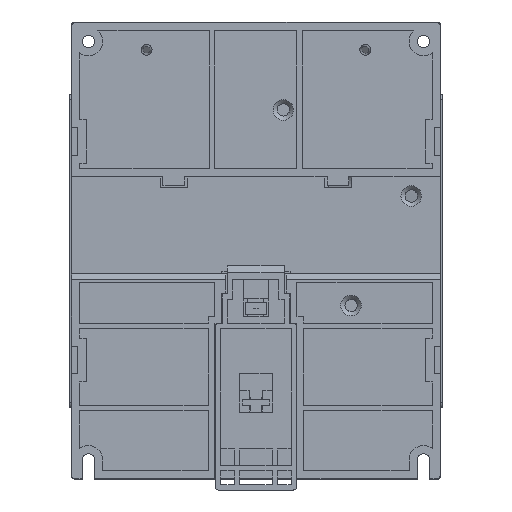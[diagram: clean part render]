
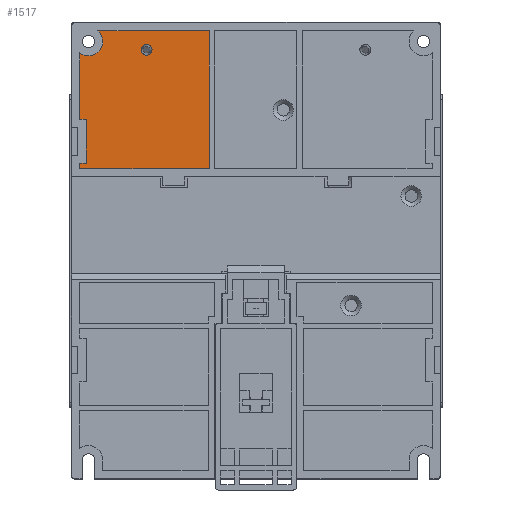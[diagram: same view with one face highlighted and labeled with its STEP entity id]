
A CAD part, left-side view. The second image highlights one B-rep face of the part: STEP entity #1517.
In plain terms, the highlighted planar face has unit normal (-1, 0, 0) as drawn and (0, -1, 0) by its records, which use the part's own axes.
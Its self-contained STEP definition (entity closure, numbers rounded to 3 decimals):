
#1517=ADVANCED_FACE('',(#9843,#9845),#9847,.T.);
#9843=FACE_BOUND('',#9844,.T.);
#9844=EDGE_LOOP('',(#35910,#35911,#35912,#35913,#35914,#35915,#35916,#35917,#35918));
#9845=FACE_BOUND('',#9846,.T.);
#9846=EDGE_LOOP('',(#35919));
#9847=PLANE('',#9848);
#9848=AXIS2_PLACEMENT_3D('',#9849,#9850,#9851);
#9849=CARTESIAN_POINT('',(0.,5.,0.));
#9850=DIRECTION('',(0.,-1.,0.));
#9851=DIRECTION('',(0.,0.,1.));
#35910=ORIENTED_EDGE('',*,*,#52299,.T.);
#35911=ORIENTED_EDGE('',*,*,#52315,.T.);
#35912=ORIENTED_EDGE('',*,*,#52313,.T.);
#35913=ORIENTED_EDGE('',*,*,#52311,.T.);
#35914=ORIENTED_EDGE('',*,*,#52309,.T.);
#35915=ORIENTED_EDGE('',*,*,#52307,.T.);
#35916=ORIENTED_EDGE('',*,*,#52305,.T.);
#35917=ORIENTED_EDGE('',*,*,#52303,.T.);
#35918=ORIENTED_EDGE('',*,*,#52301,.T.);
#35919=ORIENTED_EDGE('',*,*,#52343,.F.);
#52299=EDGE_CURVE('',#60927,#60925,#60928,.T.);
#52301=EDGE_CURVE('',#60930,#60927,#60931,.T.);
#52303=EDGE_CURVE('',#60933,#60930,#60934,.T.);
#52305=EDGE_CURVE('',#60936,#60933,#60937,.T.);
#52307=EDGE_CURVE('',#60939,#60936,#60940,.T.);
#52309=EDGE_CURVE('',#60942,#60939,#60943,.T.);
#52311=EDGE_CURVE('',#60945,#60942,#60946,.T.);
#52313=EDGE_CURVE('',#60948,#60945,#60949,.T.);
#52315=EDGE_CURVE('',#60925,#60948,#60951,.T.);
#52343=EDGE_CURVE('',#60980,#60980,#60981,.T.);
#60925=VERTEX_POINT('',#76284);
#60927=VERTEX_POINT('',#76288);
#60928=CIRCLE('',#76289,5.25);
#60930=VERTEX_POINT('',#76296);
#60931=LINE('',#76297,#76298);
#60933=VERTEX_POINT('',#76303);
#60934=LINE('',#76304,#76305);
#60936=VERTEX_POINT('',#76310);
#60937=LINE('',#76311,#76312);
#60939=VERTEX_POINT('',#76317);
#60940=LINE('',#76318,#76319);
#60942=VERTEX_POINT('',#76324);
#60943=LINE('',#76325,#76326);
#60945=VERTEX_POINT('',#76331);
#60946=LINE('',#76332,#76333);
#60948=VERTEX_POINT('',#76338);
#60949=LINE('',#76339,#76340);
#60951=LINE('',#76345,#76346);
#60980=VERTEX_POINT('',#76434);
#60981=CIRCLE('',#76435,2.);
#76284=CARTESIAN_POINT('',(64.447,5.,-72.336));
#76288=CARTESIAN_POINT('',(57.788,5.,-80.447));
#76289=AXIS2_PLACEMENT_3D('',#76290,#76291,#76292);
#76290=CARTESIAN_POINT('',(61.25,5.,-76.5));
#76291=DIRECTION('',(0.,1.,0.));
#76292=DIRECTION('',(-0.659,0.,-0.752));
#76296=CARTESIAN_POINT('',(17.,5.,-80.447));
#76297=CARTESIAN_POINT('',(17.,5.,-80.447));
#76298=VECTOR('',#76299,1.);
#76299=DIRECTION('',(1.,0.,0.));
#76303=CARTESIAN_POINT('',(17.,5.,-30.));
#76304=CARTESIAN_POINT('',(17.,5.,-30.));
#76305=VECTOR('',#76306,1.);
#76306=DIRECTION('',(0.,0.,-1.));
#76310=CARTESIAN_POINT('',(64.447,5.,-30.));
#76311=CARTESIAN_POINT('',(64.447,5.,-30.));
#76312=VECTOR('',#76313,1.);
#76313=DIRECTION('',(-1.,0.,0.));
#76317=CARTESIAN_POINT('',(64.447,5.,-32.));
#76318=CARTESIAN_POINT('',(64.447,5.,-32.));
#76319=VECTOR('',#76320,1.);
#76320=DIRECTION('',(0.,0.,1.));
#76324=CARTESIAN_POINT('',(62.,5.,-32.));
#76325=CARTESIAN_POINT('',(62.,5.,-32.));
#76326=VECTOR('',#76327,1.);
#76327=DIRECTION('',(1.,0.,0.));
#76331=CARTESIAN_POINT('',(62.,5.,-48.));
#76332=CARTESIAN_POINT('',(62.,5.,-48.));
#76333=VECTOR('',#76334,1.);
#76334=DIRECTION('',(0.,0.,1.));
#76338=CARTESIAN_POINT('',(64.447,5.,-48.));
#76339=CARTESIAN_POINT('',(64.447,5.,-48.));
#76340=VECTOR('',#76341,1.);
#76341=DIRECTION('',(-1.,0.,0.));
#76345=CARTESIAN_POINT('',(64.447,5.,-72.336));
#76346=VECTOR('',#76347,1.);
#76347=DIRECTION('',(0.,0.,1.));
#76434=CARTESIAN_POINT('',(40.,5.,-75.5));
#76435=AXIS2_PLACEMENT_3D('',#76436,#76437,#76438);
#76436=CARTESIAN_POINT('',(40.,5.,-73.5));
#76437=DIRECTION('',(0.,-1.,0.));
#76438=DIRECTION('',(0.,0.,-1.));
